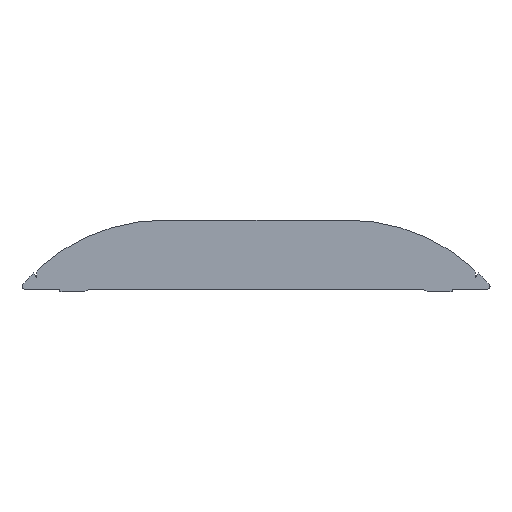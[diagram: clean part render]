
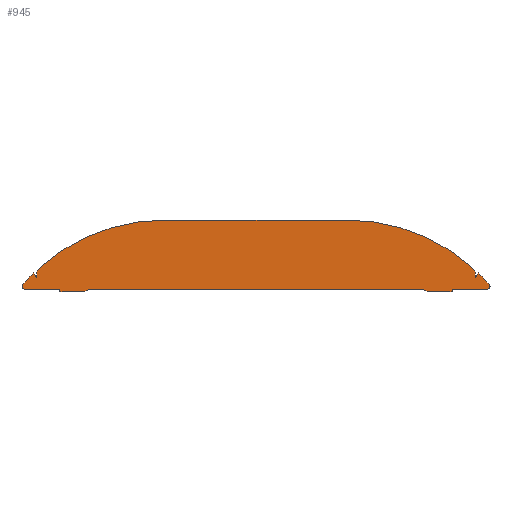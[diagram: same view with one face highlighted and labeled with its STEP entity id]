
A CAD part, left-side view. The second image highlights one B-rep face of the part: STEP entity #945.
In plain terms, the highlighted planar face has unit normal (-1, 0, 0).
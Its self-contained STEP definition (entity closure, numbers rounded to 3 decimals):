
#39=CIRCLE('',#999,136.5);
#41=CIRCLE('',#1002,7.3);
#42=CIRCLE('',#1009,136.5);
#45=CIRCLE('',#1015,7.3);
#46=CIRCLE('',#1017,136.5);
#49=CIRCLE('',#1021,136.5);
#51=CIRCLE('',#1024,6.);
#55=CIRCLE('',#1030,2.);
#56=CIRCLE('',#1031,6.);
#57=CIRCLE('',#1032,2.);
#238=ORIENTED_EDGE('',*,*,#437,.F.);
#239=ORIENTED_EDGE('',*,*,#448,.T.);
#240=ORIENTED_EDGE('',*,*,#449,.F.);
#241=ORIENTED_EDGE('',*,*,#450,.T.);
#242=ORIENTED_EDGE('',*,*,#451,.T.);
#243=ORIENTED_EDGE('',*,*,#452,.T.);
#244=ORIENTED_EDGE('',*,*,#453,.F.);
#245=ORIENTED_EDGE('',*,*,#440,.F.);
#246=ORIENTED_EDGE('',*,*,#411,.F.);
#247=ORIENTED_EDGE('',*,*,#415,.F.);
#248=ORIENTED_EDGE('',*,*,#419,.F.);
#249=ORIENTED_EDGE('',*,*,#454,.T.);
#250=ORIENTED_EDGE('',*,*,#420,.F.);
#251=ORIENTED_EDGE('',*,*,#426,.F.);
#252=ORIENTED_EDGE('',*,*,#429,.F.);
#253=ORIENTED_EDGE('',*,*,#432,.F.);
#254=ORIENTED_EDGE('',*,*,#433,.F.);
#255=ORIENTED_EDGE('',*,*,#396,.F.);
#256=ORIENTED_EDGE('',*,*,#400,.F.);
#257=ORIENTED_EDGE('',*,*,#403,.F.);
#258=ORIENTED_EDGE('',*,*,#406,.F.);
#259=ORIENTED_EDGE('',*,*,#409,.F.);
#396=EDGE_CURVE('',#515,#516,#617,.T.);
#400=EDGE_CURVE('',#518,#515,#39,.T.);
#403=EDGE_CURVE('',#520,#518,#41,.T.);
#406=EDGE_CURVE('',#522,#520,#623,.T.);
#409=EDGE_CURVE('',#524,#522,#626,.T.);
#411=EDGE_CURVE('',#525,#527,#628,.T.);
#415=EDGE_CURVE('',#529,#525,#632,.T.);
#419=EDGE_CURVE('',#532,#529,#636,.T.);
#420=EDGE_CURVE('',#533,#534,#42,.T.);
#426=EDGE_CURVE('',#538,#533,#641,.T.);
#429=EDGE_CURVE('',#540,#538,#644,.T.);
#432=EDGE_CURVE('',#542,#540,#45,.T.);
#433=EDGE_CURVE('',#516,#542,#46,.T.);
#437=EDGE_CURVE('',#544,#524,#49,.T.);
#440=EDGE_CURVE('',#527,#546,#51,.T.);
#448=EDGE_CURVE('',#544,#552,#55,.F.);
#449=EDGE_CURVE('',#553,#552,#652,.T.);
#450=EDGE_CURVE('',#553,#554,#653,.T.);
#451=EDGE_CURVE('',#554,#555,#654,.T.);
#452=EDGE_CURVE('',#555,#556,#56,.F.);
#453=EDGE_CURVE('',#546,#556,#655,.T.);
#454=EDGE_CURVE('',#532,#534,#57,.F.);
#515=VERTEX_POINT('',#1449);
#516=VERTEX_POINT('',#1451);
#518=VERTEX_POINT('',#1457);
#520=VERTEX_POINT('',#1463);
#522=VERTEX_POINT('',#1469);
#524=VERTEX_POINT('',#1475);
#525=VERTEX_POINT('',#1479);
#527=VERTEX_POINT('',#1482);
#529=VERTEX_POINT('',#1488);
#532=VERTEX_POINT('',#1496);
#533=VERTEX_POINT('',#1500);
#534=VERTEX_POINT('',#1501);
#538=VERTEX_POINT('',#1511);
#540=VERTEX_POINT('',#1517);
#542=VERTEX_POINT('',#1523);
#544=VERTEX_POINT('',#1532);
#546=VERTEX_POINT('',#1537);
#552=VERTEX_POINT('',#1555);
#553=VERTEX_POINT('',#1557);
#554=VERTEX_POINT('',#1559);
#555=VERTEX_POINT('',#1561);
#556=VERTEX_POINT('',#1563);
#617=LINE('',#1450,#724);
#623=LINE('',#1470,#730);
#626=LINE('',#1476,#733);
#628=LINE('',#1481,#735);
#632=LINE('',#1490,#739);
#636=LINE('',#1497,#743);
#641=LINE('',#1512,#748);
#644=LINE('',#1518,#751);
#652=LINE('',#1556,#759);
#653=LINE('',#1558,#760);
#654=LINE('',#1560,#761);
#655=LINE('',#1564,#762);
#724=VECTOR('',#1158,1000.);
#730=VECTOR('',#1178,1000.);
#733=VECTOR('',#1183,1000.);
#735=VECTOR('',#1187,1000.);
#739=VECTOR('',#1193,1000.);
#743=VECTOR('',#1199,1000.);
#748=VECTOR('',#1212,1000.);
#751=VECTOR('',#1217,1000.);
#759=VECTOR('',#1261,1000.);
#760=VECTOR('',#1262,1000.);
#761=VECTOR('',#1263,1000.);
#762=VECTOR('',#1266,1000.);
#806=EDGE_LOOP('',(#238,#239,#240,#241,#242,#243,#244,#245,#246,#247,#248,
#249,#250,#251,#252,#253,#254,#255,#256,#257,#258,#259));
#859=FACE_BOUND('',#806,.T.);
#902=PLANE('',#1029);
#945=ADVANCED_FACE('',(#859),#902,.F.);
#999=AXIS2_PLACEMENT_3D('',#1458,#1165,#1166);
#1002=AXIS2_PLACEMENT_3D('',#1464,#1172,#1173);
#1009=AXIS2_PLACEMENT_3D('',#1499,#1202,#1203);
#1015=AXIS2_PLACEMENT_3D('',#1524,#1223,#1224);
#1017=AXIS2_PLACEMENT_3D('',#1526,#1227,#1228);
#1021=AXIS2_PLACEMENT_3D('',#1533,#1236,#1237);
#1024=AXIS2_PLACEMENT_3D('',#1539,#1243,#1244);
#1029=AXIS2_PLACEMENT_3D('',#1553,#1257,#1258);
#1030=AXIS2_PLACEMENT_3D('',#1554,#1259,#1260);
#1031=AXIS2_PLACEMENT_3D('',#1562,#1264,#1265);
#1032=AXIS2_PLACEMENT_3D('',#1565,#1267,#1268);
#1158=DIRECTION('',(0.,-1.,0.));
#1165=DIRECTION('',(1.,0.,0.));
#1166=DIRECTION('',(0.,1.,0.));
#1172=DIRECTION('',(1.,0.,0.));
#1173=DIRECTION('',(0.,1.,0.));
#1178=DIRECTION('',(0.,-0.087,0.996));
#1183=DIRECTION('',(0.,-0.5,-0.866));
#1187=DIRECTION('',(0.,1.,0.));
#1193=DIRECTION('',(0.,0.,-1.));
#1199=DIRECTION('',(0.,1.,0.));
#1202=DIRECTION('',(1.,0.,0.));
#1203=DIRECTION('',(0.,1.,0.));
#1212=DIRECTION('',(0.,-0.5,0.866));
#1217=DIRECTION('',(0.,-0.087,-0.996));
#1223=DIRECTION('',(1.,0.,0.));
#1224=DIRECTION('',(0.,1.,0.));
#1227=DIRECTION('',(1.,0.,0.));
#1228=DIRECTION('',(0.,1.,0.));
#1236=DIRECTION('',(1.,0.,0.));
#1237=DIRECTION('',(0.,1.,0.));
#1243=DIRECTION('',(1.,0.,0.));
#1244=DIRECTION('',(0.,1.,0.));
#1257=DIRECTION('',(1.,0.,0.));
#1258=DIRECTION('',(0.,1.,0.));
#1259=DIRECTION('',(1.,0.,0.));
#1260=DIRECTION('',(0.,1.,0.));
#1261=DIRECTION('',(0.,1.,0.));
#1262=DIRECTION('',(0.,0.,-1.));
#1263=DIRECTION('',(0.,-1.,0.));
#1264=DIRECTION('',(1.,0.,0.));
#1265=DIRECTION('',(0.,1.,0.));
#1266=DIRECTION('',(0.,1.,0.));
#1267=DIRECTION('',(1.,0.,0.));
#1268=DIRECTION('',(0.,1.,0.));
#1449=CARTESIAN_POINT('',(-1229.,66.,50.));
#1450=CARTESIAN_POINT('',(-1229.,66.,50.));
#1451=CARTESIAN_POINT('',(-1229.,-66.,50.));
#1457=CARTESIAN_POINT('',(-1229.,156.166,15.981));
#1458=CARTESIAN_POINT('',(-1229.,66.,-86.5));
#1463=CARTESIAN_POINT('',(-1229.,158.616,11.136));
#1464=CARTESIAN_POINT('',(-1229.,151.344,10.5));
#1469=CARTESIAN_POINT('',(-1229.,158.852,8.447));
#1470=CARTESIAN_POINT('',(-1229.,158.616,11.136));
#1475=CARTESIAN_POINT('',(-1229.,160.759,11.75));
#1476=CARTESIAN_POINT('',(-1229.,158.852,8.447));
#1479=CARTESIAN_POINT('',(-1229.,-141.8,-2.));
#1481=CARTESIAN_POINT('',(-1229.,-141.8,-2.));
#1482=CARTESIAN_POINT('',(-1229.,-125.7,-2.));
#1488=CARTESIAN_POINT('',(-1229.,-141.8,0.));
#1490=CARTESIAN_POINT('',(-1229.,-141.8,0.));
#1496=CARTESIAN_POINT('',(-1229.,-167.282,0.));
#1497=CARTESIAN_POINT('',(-1229.,-171.594,0.));
#1499=CARTESIAN_POINT('',(-1229.,-66.,-86.5));
#1500=CARTESIAN_POINT('',(-1229.,-160.759,11.75));
#1501=CARTESIAN_POINT('',(-1229.,-168.788,3.316));
#1511=CARTESIAN_POINT('',(-1229.,-158.852,8.447));
#1512=CARTESIAN_POINT('',(-1229.,-158.852,8.447));
#1517=CARTESIAN_POINT('',(-1229.,-158.616,11.136));
#1518=CARTESIAN_POINT('',(-1229.,-158.616,11.136));
#1523=CARTESIAN_POINT('',(-1229.,-156.166,15.981));
#1524=CARTESIAN_POINT('',(-1229.,-151.344,10.5));
#1526=CARTESIAN_POINT('',(-1229.,-66.,-86.5));
#1532=CARTESIAN_POINT('',(-1229.,168.788,3.316));
#1533=CARTESIAN_POINT('',(-1229.,66.,-86.5));
#1537=CARTESIAN_POINT('',(-1229.,-121.228,0.));
#1539=CARTESIAN_POINT('',(-1229.,-125.7,4.));
#1553=CARTESIAN_POINT('',(-1229.,66.,-86.5));
#1554=CARTESIAN_POINT('',(-1229.,167.282,2.));
#1555=CARTESIAN_POINT('',(-1229.,167.282,0.));
#1556=CARTESIAN_POINT('',(-1229.,-171.594,0.));
#1557=CARTESIAN_POINT('',(-1229.,141.8,0.));
#1558=CARTESIAN_POINT('',(-1229.,141.8,0.));
#1559=CARTESIAN_POINT('',(-1229.,141.8,-2.));
#1560=CARTESIAN_POINT('',(-1229.,141.8,-2.));
#1561=CARTESIAN_POINT('',(-1229.,125.7,-2.));
#1562=CARTESIAN_POINT('',(-1229.,125.7,4.));
#1563=CARTESIAN_POINT('',(-1229.,121.228,0.));
#1564=CARTESIAN_POINT('',(-1229.,-171.594,0.));
#1565=CARTESIAN_POINT('',(-1229.,-167.282,2.));
